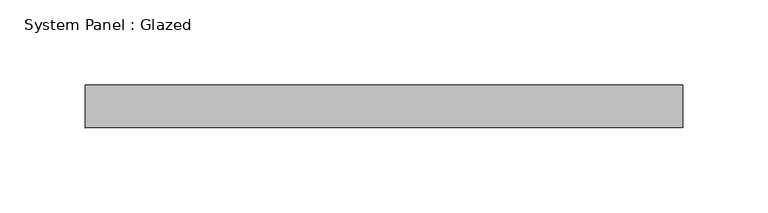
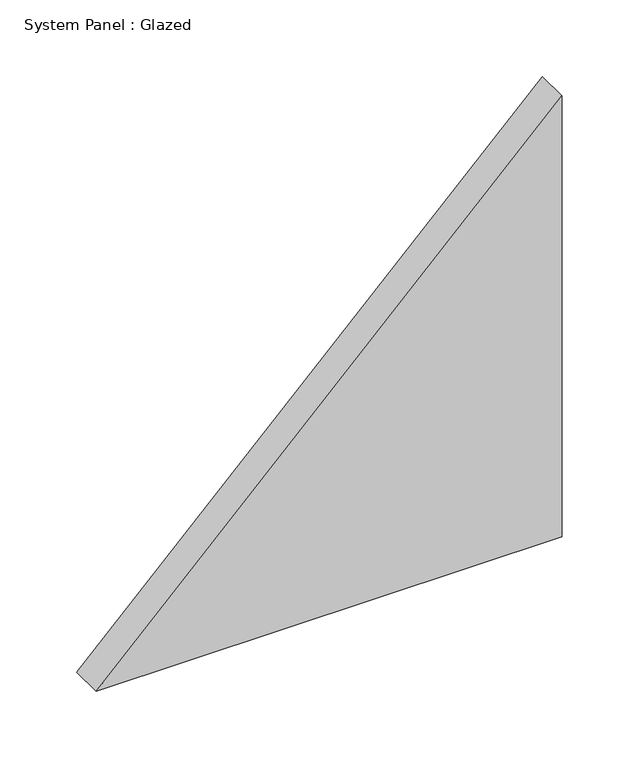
"""IFC4 building model written with IfcOpenShell, lengths in millimetres: plate geometry, System Panel : Glazed."""

from ifc_helpers import new_model, si_unit, frame, origin, place, context, project, spatial, polyline, outline, extrude, source, transform, mapped, element, save


def system_panel_glazed_26c7c5f0(model_context):
    return source(origin(), model_context, "Body", "SweptSolid", [
        extrude(outline(polyline([(0.0, -175.0), (0.0, 175.0), (350.0, 175.0), (0.0, -175.0)])), frame((0.0, -49.5, 0.0), z_axis=(0.0, 1.0, 0.0), x_axis=(0.0, 0.0, 1.0)), (0.0, 0.0, 1.0), 25.0),
    ])


if __name__ == "__main__":
    model = new_model("IFC4")
    model_context = context("Model", 3, world=origin())
    ifc_project = project(units=[si_unit("LENGTHUNIT", "METRE", prefix="MILLI")], contexts=[model_context])
    site = spatial("IfcSite", under=ifc_project)
    building = spatial("IfcBuilding", under=site)
    placement = place(None, origin())
    system_panel_glazed_shape = system_panel_glazed_26c7c5f0(model_context)
    element("IfcPlate", 1, ObjectType="System Panel : Glazed", at=placement, inside=building, context=model_context, shape_type="MappedRepresentation", body=[
        mapped(system_panel_glazed_shape, transform((0.0, 0.0, 0.0), x_axis=(1.0, 0.0, 0.0), y_axis=(0.0, 1.0, 0.0), z_axis=(0.0, 0.0, 1.0))),
    ])
    save(model, "model.ifc")
